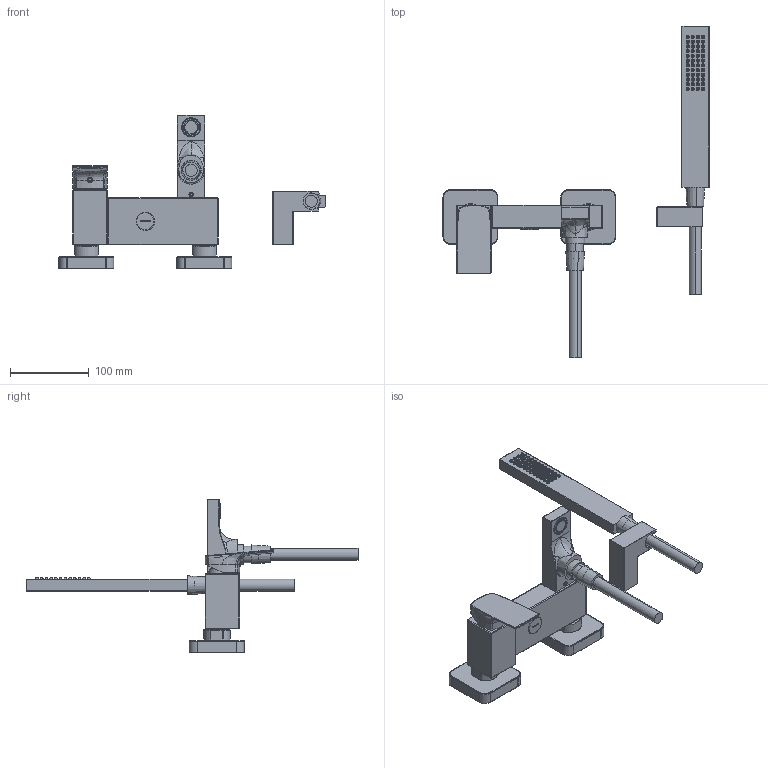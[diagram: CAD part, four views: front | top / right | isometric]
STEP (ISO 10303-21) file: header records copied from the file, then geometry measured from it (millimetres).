
FILE_DESCRIPTION((''),'2;1');
FILE_NAME('3D_SW0001','2024-10-07T14:23:03',('volponeff'),(''),'CREO PARAMETRIC BY PTC INC, 2022014','CREO PARAMETRIC BY PTC INC, 2022014','');
FILE_SCHEMA(('CONFIG_CONTROL_DESIGN'));
Length unit declared in the file: millimetre
Products named in the file (1): 3D_SW0001
Bounding box: 338.5 x 422.25 x 194.9 mm (x, y, z)
Surface area: 191062.8 mm2 (no closed solid volume)
Topology: 0 solids, 109 shells, 1267 faces, 3385 edges, 2201 vertices
Faces by surface type: plane 337, cylinder 320, torus 315, cone 151, bspline 104, sphere 38, extrusion 2
Entity records: 48344 total; most frequent: CARTESIAN_POINT 16769, DIRECTION 7284, ORIENTED_EDGE 5786, EDGE_CURVE 3383, AXIS2_PLACEMENT_3D 3087, VERTEX_POINT 2201, CIRCLE 1926, EDGE_LOOP 1410
